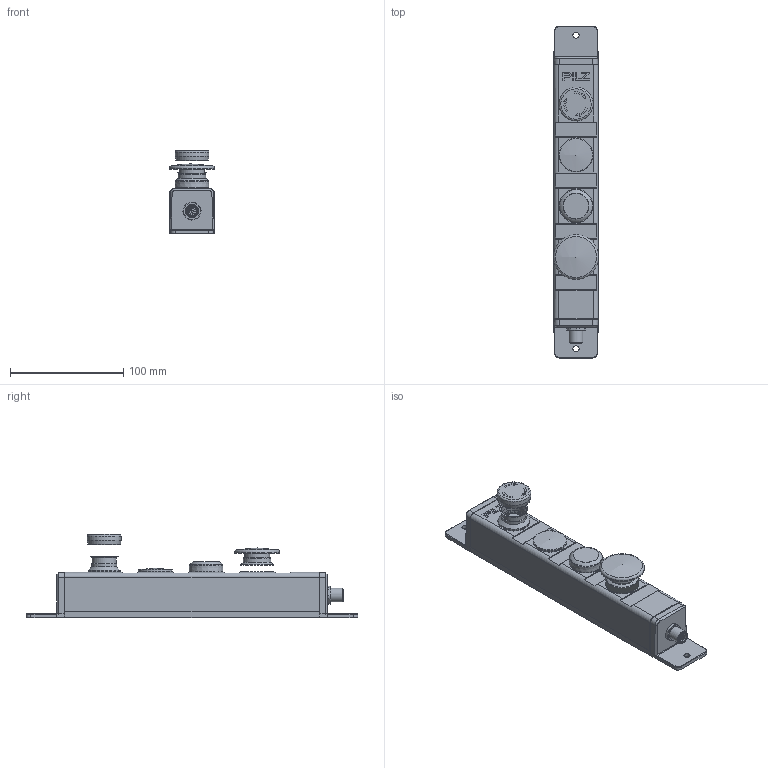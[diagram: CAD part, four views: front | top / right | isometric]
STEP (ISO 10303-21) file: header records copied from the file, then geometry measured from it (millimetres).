
FILE_DESCRIPTION(/* description */ (''),/* implementation_level */ '2;1');
FILE_NAME(/* name */ 'C:\_Vault\Workspace\Projektordner\08-Uebungsordner\ndie\2032037__PIT_gb_VCME.stp',/* time_stamp */ '2022-02-03T16:54:15+01:00',/* author */ (''),/* organization */ (''),/* preprocessor_version */ 'ST-DEVELOPER v18.1',/* originating_system */ 'Autodesk Inventor 2022',/* authorisation */ '');
FILE_SCHEMA (('AUTOMOTIVE_DESIGN { 1 0 10303 214 3 1 1 }'));
Length unit declared in the file: millimetre
Products named in the file (1): 2032037
Bounding box: 40 x 293 x 73.65 mm (x, y, z)
Volume: 422132.8 mm3; surface area: 58780 mm2
Topology: 1 solids, 27 shells, 748 faces, 1801 edges, 1140 vertices
Faces by surface type: cylinder 245, plane 240, cone 135, torus 57, bspline 51, sphere 20
Full cylindrical faces by diameter (mm): 0.6 x12, 5.4 x2, 8.3 x1, 9.5 x2, 9.6 x2, 10 x1, 10.6 x1, 12 x2, 12.1 x1, 19 x1, 21.5 x1, 22 x2, 22.2 x1, 22.55 x1, 28 x1, 28.2 x1, 28.6 x2, 29.2 x2, 39.5 x1
Entity records: 25513 total; most frequent: CARTESIAN_POINT 7624, ORIENTED_EDGE 3576, DIRECTION 3543, EDGE_CURVE 1788, AXIS2_PLACEMENT_3D 1423, VERTEX_POINT 1140, EDGE_LOOP 807, STYLED_ITEM 749
